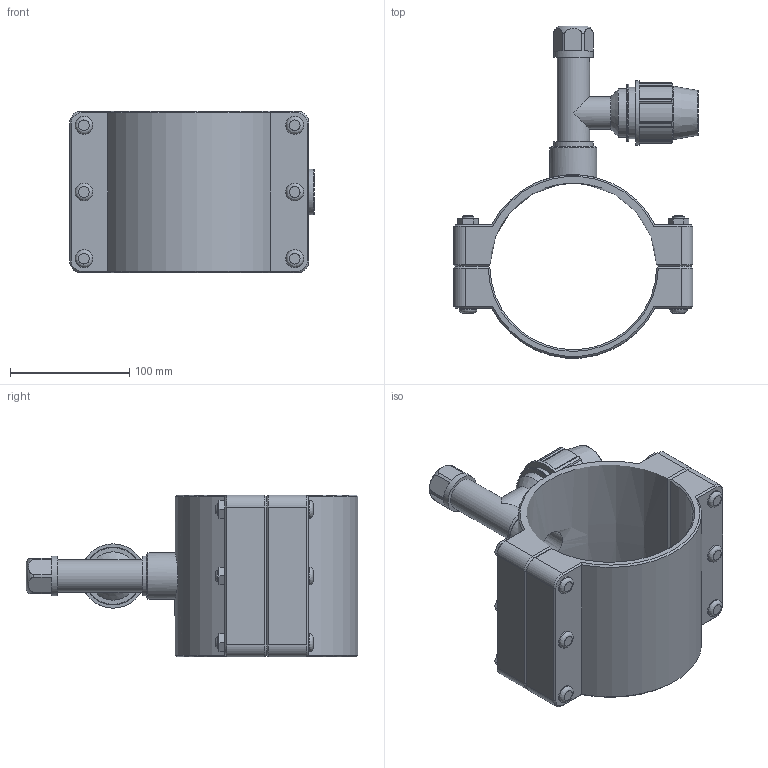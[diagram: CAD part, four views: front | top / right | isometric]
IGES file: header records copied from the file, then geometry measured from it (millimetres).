
Global section: file name: 165400140025_165406140025.ipt; native system: Autodesk Inventor 2015; preprocessor: unknown; author: KIM; date: 20170618.093938; units: millimetre
Bounding box: 205.5 x 278.73 x 136 mm (x, y, z)
Volume: 1065794 mm3; surface area: 214908.6 mm2
Topology: 1 solids, 1 shells, 260 faces, 648 edges, 422 vertices
Faces by surface type: plane 163, cylinder 48, cone 30, revolution 19
Full cylindrical faces by diameter (mm): 10 x6, 15 x12, 27.262 x2, 30.291 x1, 33.32 x2, 39.378 x1, 40.5 x1, 43.2 x1, 48.6 x1, 54 x1
